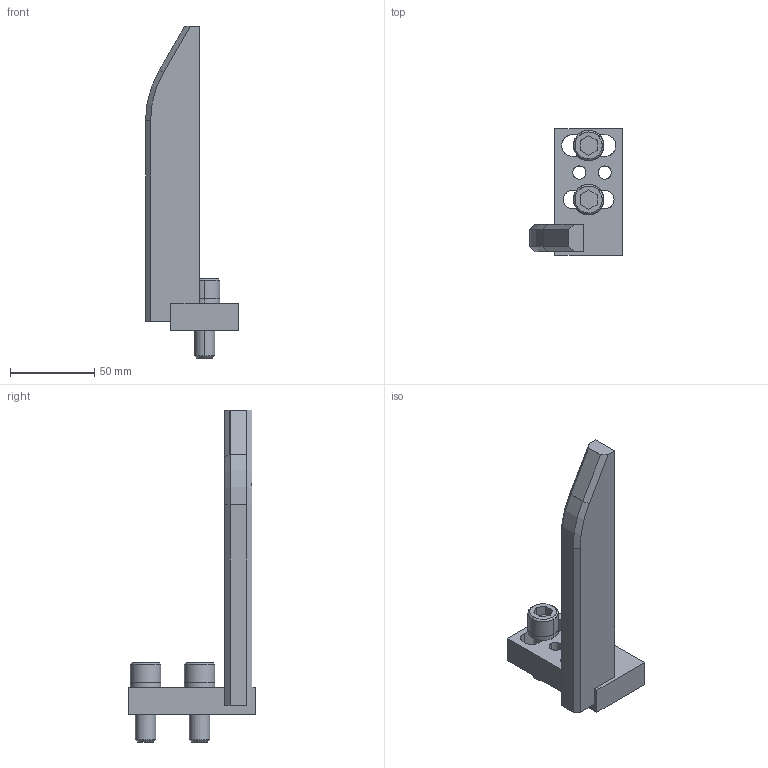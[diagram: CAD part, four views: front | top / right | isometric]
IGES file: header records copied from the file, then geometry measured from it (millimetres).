
Global section: file name: E:\UnigraphicsGraphicData\MISUMI_PRESS-PARTS\IGES\3d_ngnbl-180-40-m12_01544_r00.igs; native system: NX V5.0; preprocessor: UGS NX IGES V5.0; author: MISUMI; date: 20110105.162054; units: millimetre
Bounding box: 55 x 75 x 196.5 mm (x, y, z)
Surface area: 34356.7 mm2 (no closed solid volume)
Topology: 0 solids, 0 shells, 104 faces, 665 edges, 665 vertices
Faces by surface type: bspline 104
